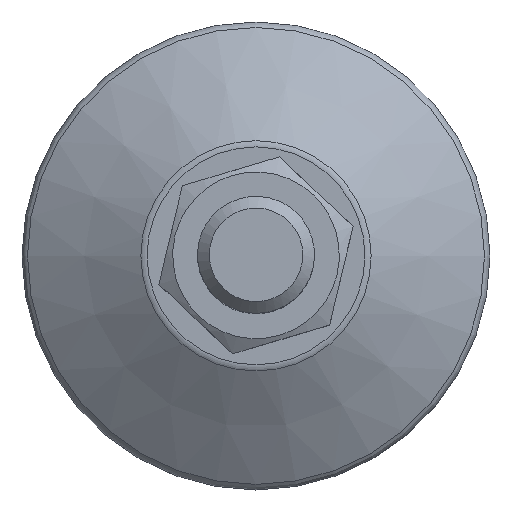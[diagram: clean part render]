
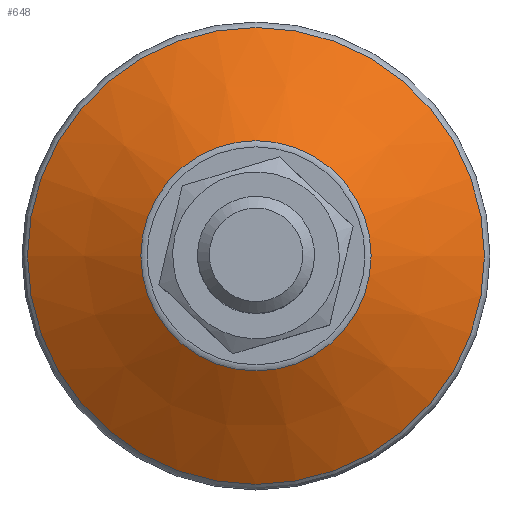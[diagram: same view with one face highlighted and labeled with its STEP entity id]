
A CAD part, top view. The second image highlights one B-rep face of the part: STEP entity #648.
In plain terms, the highlighted conical face has half-angle 58 degrees and reference radius 29.371 mm.
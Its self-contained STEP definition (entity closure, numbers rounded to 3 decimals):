
#648=ADVANCED_FACE('',(#2299,#2301),#2303,.T.);
#2299=FACE_BOUND('',#2300,.T.);
#2300=EDGE_LOOP('',(#3559,#3560));
#2301=FACE_BOUND('',#2302,.T.);
#2302=EDGE_LOOP('',(#3561,#3562));
#2303=CONICAL_SURFACE('',#2304,29.371,1.012);
#2304=AXIS2_PLACEMENT_3D('',#2305,#2306,#2307);
#2305=CARTESIAN_POINT('',(0.,0.,11.642));
#2306=DIRECTION('',(0.,0.,-1.));
#2307=DIRECTION('',(1.,0.,0.));
#3559=ORIENTED_EDGE('',*,*,#4358,.T.);
#3560=ORIENTED_EDGE('',*,*,#4359,.T.);
#3561=ORIENTED_EDGE('',*,*,#4357,.F.);
#3562=ORIENTED_EDGE('',*,*,#4356,.F.);
#4356=EDGE_CURVE('',#4877,#4878,#4879,.T.);
#4357=EDGE_CURVE('',#4878,#4877,#4880,.T.);
#4358=EDGE_CURVE('',#4881,#4882,#4883,.T.);
#4359=EDGE_CURVE('',#4882,#4881,#4884,.T.);
#4877=VERTEX_POINT('',#6719);
#4878=VERTEX_POINT('',#6720);
#4879=CIRCLE('',#6721,19.682);
#4880=CIRCLE('',#6725,19.682);
#4881=VERTEX_POINT('',#6729);
#4882=VERTEX_POINT('',#6730);
#4883=CIRCLE('',#6731,39.06);
#4884=CIRCLE('',#6735,39.06);
#6719=CARTESIAN_POINT('',(19.682,0.,17.696));
#6720=CARTESIAN_POINT('',(-19.682,0.,17.696));
#6721=AXIS2_PLACEMENT_3D('',#6722,#6723,#6724);
#6722=CARTESIAN_POINT('',(0.,0.,17.696));
#6723=DIRECTION('',(0.,0.,1.));
#6724=DIRECTION('',(1.,0.,0.));
#6725=AXIS2_PLACEMENT_3D('',#6726,#6727,#6728);
#6726=CARTESIAN_POINT('',(0.,0.,17.696));
#6727=DIRECTION('',(0.,0.,1.));
#6728=DIRECTION('',(-1.,0.,0.));
#6729=CARTESIAN_POINT('',(39.06,0.,5.587));
#6730=CARTESIAN_POINT('',(-39.06,0.,5.587));
#6731=AXIS2_PLACEMENT_3D('',#6732,#6733,#6734);
#6732=CARTESIAN_POINT('',(0.,0.,5.587));
#6733=DIRECTION('',(0.,0.,1.));
#6734=DIRECTION('',(1.,0.,0.));
#6735=AXIS2_PLACEMENT_3D('',#6736,#6737,#6738);
#6736=CARTESIAN_POINT('',(0.,0.,5.587));
#6737=DIRECTION('',(0.,0.,1.));
#6738=DIRECTION('',(-1.,0.,0.));
